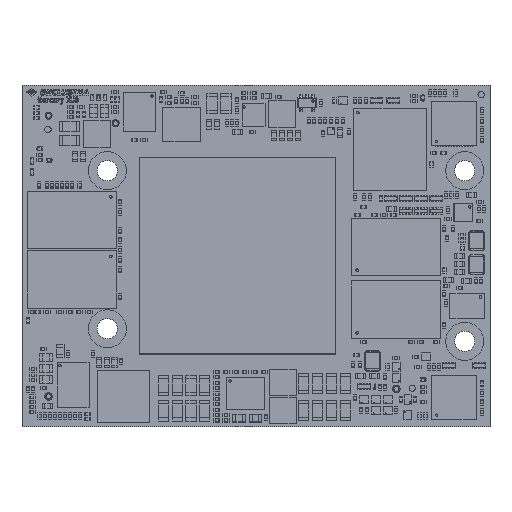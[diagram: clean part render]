
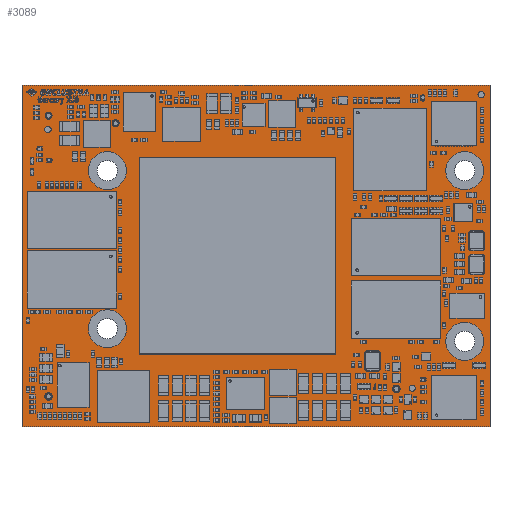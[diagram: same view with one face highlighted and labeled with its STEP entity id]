
A CAD part, top view. The second image highlights one B-rep face of the part: STEP entity #3089.
In plain terms, the highlighted planar face has unit normal (0, 0, 1).
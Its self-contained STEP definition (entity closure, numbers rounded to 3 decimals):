
#2600 = VERTEX_POINT('',#2601);
#2601 = CARTESIAN_POINT('',(0.,0.,1.6));
#2607 = EDGE_CURVE('',#2600,#2608,#2610,.T.);
#2608 = VERTEX_POINT('',#2609);
#2609 = CARTESIAN_POINT('',(74.,0.,1.6));
#2610 = LINE('',#2611,#2612);
#2611 = CARTESIAN_POINT('',(0.,0.,1.6));
#2612 = VECTOR('',#2613,1.);
#2613 = DIRECTION('',(1.,0.,0.));
#2638 = EDGE_CURVE('',#2608,#2639,#2641,.T.);
#2639 = VERTEX_POINT('',#2640);
#2640 = CARTESIAN_POINT('',(74.,54.,1.6));
#2641 = LINE('',#2642,#2643);
#2642 = CARTESIAN_POINT('',(74.,0.,1.6));
#2643 = VECTOR('',#2644,1.);
#2644 = DIRECTION('',(0.,1.,0.));
#2669 = EDGE_CURVE('',#2639,#2670,#2672,.T.);
#2670 = VERTEX_POINT('',#2671);
#2671 = CARTESIAN_POINT('',(0.,54.,1.6));
#2672 = LINE('',#2673,#2674);
#2673 = CARTESIAN_POINT('',(74.,54.,1.6));
#2674 = VECTOR('',#2675,1.);
#2675 = DIRECTION('',(-1.,0.,0.));
#2700 = EDGE_CURVE('',#2670,#2600,#2701,.T.);
#2701 = LINE('',#2702,#2703);
#2702 = CARTESIAN_POINT('',(0.,54.,1.6));
#2703 = VECTOR('',#2704,1.);
#2704 = DIRECTION('',(0.,-1.,0.));
#2724 = VERTEX_POINT('',#2725);
#2725 = CARTESIAN_POINT('',(4.8,4.8,1.6));
#2731 = EDGE_CURVE('',#2724,#2724,#2732,.T.);
#2732 = CIRCLE('',#2733,0.6);
#2733 = AXIS2_PLACEMENT_3D('',#2734,#2735,#2736);
#2734 = CARTESIAN_POINT('',(4.2,4.8,1.6));
#2735 = DIRECTION('',(0.,0.,1.));
#2736 = DIRECTION('',(1.,0.,0.));
#2757 = VERTEX_POINT('',#2758);
#2758 = CARTESIAN_POINT('',(15.35,6.,1.6));
#2764 = EDGE_CURVE('',#2757,#2757,#2765,.T.);
#2765 = CIRCLE('',#2766,0.55);
#2766 = AXIS2_PLACEMENT_3D('',#2767,#2768,#2769);
#2767 = CARTESIAN_POINT('',(14.8,6.,1.6));
#2768 = DIRECTION('',(0.,0.,1.));
#2769 = DIRECTION('',(1.,0.,0.));
#2790 = VERTEX_POINT('',#2791);
#2791 = CARTESIAN_POINT('',(4.75,49.2,1.6));
#2797 = EDGE_CURVE('',#2790,#2790,#2798,.T.);
#2798 = CIRCLE('',#2799,0.55);
#2799 = AXIS2_PLACEMENT_3D('',#2800,#2801,#2802);
#2800 = CARTESIAN_POINT('',(4.2,49.2,1.6));
#2801 = DIRECTION('',(0.,0.,1.));
#2802 = DIRECTION('',(1.,0.,0.));
#2823 = VERTEX_POINT('',#2824);
#2824 = CARTESIAN_POINT('',(15.1,15.5,1.6));
#2830 = EDGE_CURVE('',#2823,#2823,#2831,.T.);
#2831 = CIRCLE('',#2832,1.6);
#2832 = AXIS2_PLACEMENT_3D('',#2833,#2834,#2835);
#2833 = CARTESIAN_POINT('',(13.5,15.5,1.6));
#2834 = DIRECTION('',(0.,0.,1.));
#2835 = DIRECTION('',(1.,0.,0.));
#2856 = VERTEX_POINT('',#2857);
#2857 = CARTESIAN_POINT('',(15.1,40.5,1.6));
#2863 = EDGE_CURVE('',#2856,#2856,#2864,.T.);
#2864 = CIRCLE('',#2865,1.6);
#2865 = AXIS2_PLACEMENT_3D('',#2866,#2867,#2868);
#2866 = CARTESIAN_POINT('',(13.5,40.5,1.6));
#2867 = DIRECTION('',(0.,0.,1.));
#2868 = DIRECTION('',(1.,0.,0.));
#2889 = VERTEX_POINT('',#2890);
#2890 = CARTESIAN_POINT('',(59.8,6.,1.6));
#2896 = EDGE_CURVE('',#2889,#2889,#2897,.T.);
#2897 = CIRCLE('',#2898,0.6);
#2898 = AXIS2_PLACEMENT_3D('',#2899,#2900,#2901);
#2899 = CARTESIAN_POINT('',(59.2,6.,1.6));
#2900 = DIRECTION('',(0.,0.,1.));
#2901 = DIRECTION('',(1.,0.,0.));
#2922 = VERTEX_POINT('',#2923);
#2923 = CARTESIAN_POINT('',(71.6,13.5,1.6));
#2929 = EDGE_CURVE('',#2922,#2922,#2930,.T.);
#2930 = CIRCLE('',#2931,1.6);
#2931 = AXIS2_PLACEMENT_3D('',#2932,#2933,#2934);
#2932 = CARTESIAN_POINT('',(70.,13.5,1.6));
#2933 = DIRECTION('',(0.,0.,1.));
#2934 = DIRECTION('',(1.,0.,0.));
#2955 = VERTEX_POINT('',#2956);
#2956 = CARTESIAN_POINT('',(15.35,48.,1.6));
#2962 = EDGE_CURVE('',#2955,#2955,#2963,.T.);
#2963 = CIRCLE('',#2964,0.55);
#2964 = AXIS2_PLACEMENT_3D('',#2965,#2966,#2967);
#2965 = CARTESIAN_POINT('',(14.8,48.,1.6));
#2966 = DIRECTION('',(0.,0.,1.));
#2967 = DIRECTION('',(1.,0.,0.));
#2988 = VERTEX_POINT('',#2989);
#2989 = CARTESIAN_POINT('',(71.6,40.5,1.6));
#2995 = EDGE_CURVE('',#2988,#2988,#2996,.T.);
#2996 = CIRCLE('',#2997,1.6);
#2997 = AXIS2_PLACEMENT_3D('',#2998,#2999,#3000);
#2998 = CARTESIAN_POINT('',(70.,40.5,1.6));
#2999 = DIRECTION('',(0.,0.,1.));
#3000 = DIRECTION('',(1.,0.,0.));
#3021 = VERTEX_POINT('',#3022);
#3022 = CARTESIAN_POINT('',(59.8,48.,1.6));
#3028 = EDGE_CURVE('',#3021,#3021,#3029,.T.);
#3029 = CIRCLE('',#3030,0.6);
#3030 = AXIS2_PLACEMENT_3D('',#3031,#3032,#3033);
#3031 = CARTESIAN_POINT('',(59.2,48.,1.6));
#3032 = DIRECTION('',(0.,0.,1.));
#3033 = DIRECTION('',(1.,0.,0.));
#3089 = ADVANCED_FACE('',(#3090,#3096,#3099,#3102,#3105,#3108,#3111,
    #3114,#3117,#3120,#3123),#3126,.F.);
#3090 = FACE_BOUND('',#3091,.T.);
#3091 = EDGE_LOOP('',(#3092,#3093,#3094,#3095));
#3092 = ORIENTED_EDGE('',*,*,#2607,.T.);
#3093 = ORIENTED_EDGE('',*,*,#2638,.T.);
#3094 = ORIENTED_EDGE('',*,*,#2669,.T.);
#3095 = ORIENTED_EDGE('',*,*,#2700,.T.);
#3096 = FACE_BOUND('',#3097,.F.);
#3097 = EDGE_LOOP('',(#3098));
#3098 = ORIENTED_EDGE('',*,*,#2731,.T.);
#3099 = FACE_BOUND('',#3100,.F.);
#3100 = EDGE_LOOP('',(#3101));
#3101 = ORIENTED_EDGE('',*,*,#2764,.T.);
#3102 = FACE_BOUND('',#3103,.F.);
#3103 = EDGE_LOOP('',(#3104));
#3104 = ORIENTED_EDGE('',*,*,#2797,.T.);
#3105 = FACE_BOUND('',#3106,.F.);
#3106 = EDGE_LOOP('',(#3107));
#3107 = ORIENTED_EDGE('',*,*,#2830,.T.);
#3108 = FACE_BOUND('',#3109,.F.);
#3109 = EDGE_LOOP('',(#3110));
#3110 = ORIENTED_EDGE('',*,*,#2863,.T.);
#3111 = FACE_BOUND('',#3112,.F.);
#3112 = EDGE_LOOP('',(#3113));
#3113 = ORIENTED_EDGE('',*,*,#2896,.T.);
#3114 = FACE_BOUND('',#3115,.F.);
#3115 = EDGE_LOOP('',(#3116));
#3116 = ORIENTED_EDGE('',*,*,#2929,.T.);
#3117 = FACE_BOUND('',#3118,.F.);
#3118 = EDGE_LOOP('',(#3119));
#3119 = ORIENTED_EDGE('',*,*,#2962,.T.);
#3120 = FACE_BOUND('',#3121,.F.);
#3121 = EDGE_LOOP('',(#3122));
#3122 = ORIENTED_EDGE('',*,*,#2995,.T.);
#3123 = FACE_BOUND('',#3124,.F.);
#3124 = EDGE_LOOP('',(#3125));
#3125 = ORIENTED_EDGE('',*,*,#3028,.T.);
#3126 = PLANE('',#3127);
#3127 = AXIS2_PLACEMENT_3D('',#3128,#3129,#3130);
#3128 = CARTESIAN_POINT('',(0.,0.,1.6));
#3129 = DIRECTION('',(0.,0.,-1.));
#3130 = DIRECTION('',(-1.,0.,0.));
